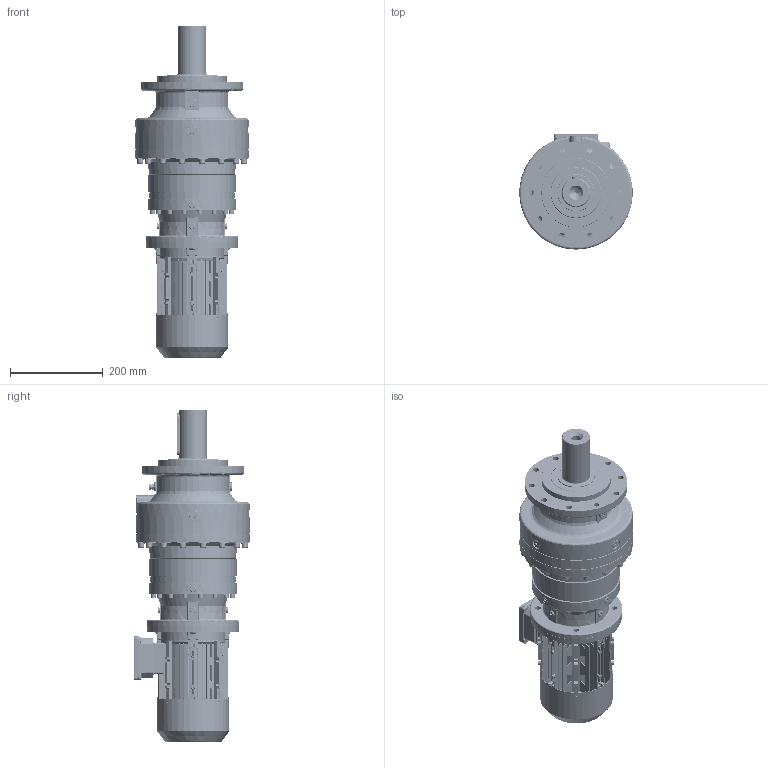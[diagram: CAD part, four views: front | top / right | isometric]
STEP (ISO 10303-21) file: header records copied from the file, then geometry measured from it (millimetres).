
FILE_DESCRIPTION (( 'STEP AP203' ), '1' );
FILE_NAME ('PVL-1503L-MX80-4.STEP', '2019-05-13T10:58:39', ( '' ), ( '' ), 'SwSTEP 2.0', 'SolidWorks 2012', '' );
FILE_SCHEMA (( 'CONFIG_CONTROL_DESIGN' ));
Products named in the file (18): PVL-1503L-MX80-4; Flansch-80_IMB5; IE 3 80 Plug; IE3 80 Cable glands; MX3-80_B5; IE3 80 Gasket for T-box(base); IE3 80 Teriminal box base; IE3 80 Fan cover; IE3 80 terminal box cover; IE3 80 Casing; IE3 80 Shaft; IE3 80 Shield; ML13A_Varsayìlan; EK1503L_Varsayìlan; PNL_1503L_0_0_A08_B5_ML13A_FL3A_0_0_0_0_0_0_0_0_0_0_0_M1; FL3A_Varsayìlan; 1180B5_Varsayìlan; P15_Varsayìlan
Assembly tree (17 placements, depth 3):
  PVL-1503L-MX80-4
    PNL_1503L_0_0_A08_B5_ML13A_FL3A_0_0_0_0_0_0_0_0_0_0_0_M1
      P15_Varsayìlan
      1180B5_Varsayìlan
      ML13A_Varsayìlan
      EK1503L_Varsayìlan
      FL3A_Varsayìlan
    MX3-80_B5
      IE3 80 Casing
      IE3 80 Shield
      IE3 80 Shaft
      IE3 80 Fan cover
      IE3 80 Teriminal box base
      IE3 80 Gasket for T-box(base)
      IE3 80 terminal box cover
      IE3 80 Cable glands
      Flansch-80_IMB5
      IE 3 80 Plug
Bounding box: 245 x 249.1 x 717.7 mm (x, y, z)
Volume: 11874046.9 mm3; surface area: 1315490.4 mm2
Topology: 19 solids, 19 shells, 6121 faces, 15664 edges, 9592 vertices
Faces by surface type: plane 1931, cylinder 1751, bspline 1579, cone 499, torus 249, sphere 112
Entity records: 246558 total; most frequent: CARTESIAN_POINT 108628, ORIENTED_EDGE 30902, DIRECTION 25389, EDGE_CURVE 15451, AXIS2_PLACEMENT_3D 9686, VERTEX_POINT 9576, EDGE_LOOP 6645, FACE_OUTER_BOUND 6121
